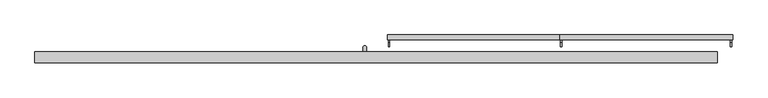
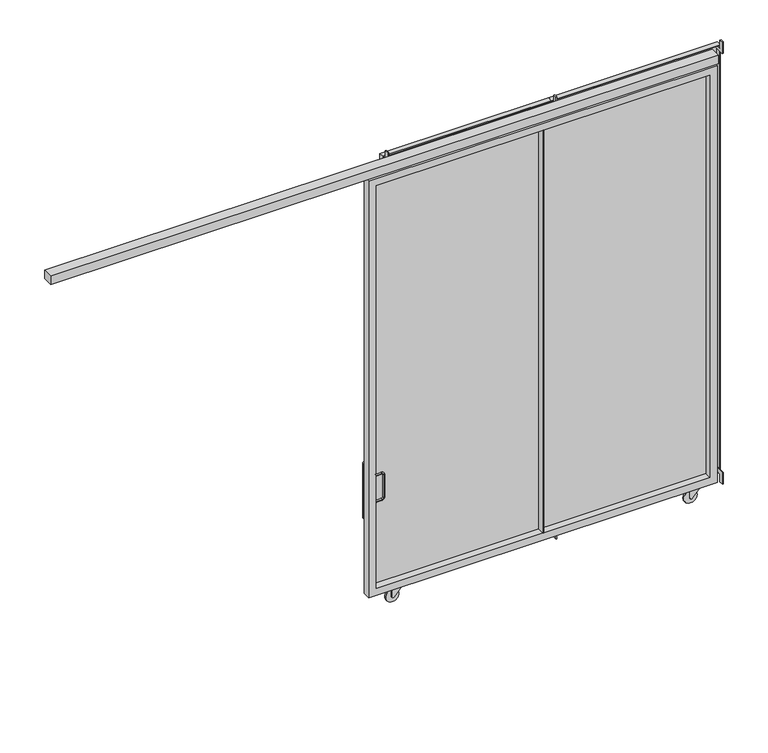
"""IFC4 building model written with IfcOpenShell, lengths in millimetres: furniture geometry, H05 Protección 4 módulos Corredizo lateral : H05 Protección 4 módulos Corredizo lateral 450x315."""

from ifc_helpers import new_model, si_unit, point, frame, frame_2d, origin, place, context, project, spatial, polyline, circle_curve, ellipse_curve, trimmed, segment, composite_curve, outline, extrude, source, transform, mapped, element, save
from ifc_brep_helpers import plane_surface, cylinder_surface, revolved_surface, advanced_brep


def furniture_e5700928(model_context):
    return source(origin(), model_context, "Body", "SolidModel", [
        advanced_brep(
        [(-50.0, -136.0, 949.0), (-50.0, -124.0, 949.0), (-8.0, -136.0, 949.0), (-8.0, -124.0, 949.0), (6.0, -124.0, 935.0), (6.0, -136.0, 935.0), (6.0, -136.0, 775.0), (6.0, -124.0, 775.0), (-50.0, -136.0, 761.0), (-50.0, -124.0, 761.0), (-8.0, -124.0, 761.0), (-8.0, -136.0, 761.0)],
        [
            (0, 1, circle_curve(frame((-50.0, -130.0, 949.0), z_axis=(-1.0, 0.0, 0.0), x_axis=(0.0, 1.0, 0.0)), 6.0)),
            (1, 0, circle_curve(frame((-50.0, -130.0, 949.0), z_axis=(-1.0, 0.0, 0.0), x_axis=(0.0, 1.0, 0.0)), 6.0)),
            (0, 2),
            (2, 3, circle_curve(frame((-8.0, -130.0, 949.0), z_axis=(-1.0, 0.0, 0.0), x_axis=(0.0, 1.0, 0.0)), 6.0)),
            (3, 1),
            (3, 2, circle_curve(frame((-8.0, -130.0, 949.0), z_axis=(-1.0, 0.0, 0.0), x_axis=(0.0, 1.0, 0.0)), 6.0)),
            (4, 5, circle_curve(frame((6.0, -130.0, 935.0), z_axis=(0.0, 0.0, -1.0), x_axis=(0.0, 1.0, 0.0)), 6.0)),
            (5, 6),
            (6, 7, circle_curve(frame((6.0, -130.0, 775.0), z_axis=(0.0, 0.0, 1.0), x_axis=(0.0, 1.0, 0.0)), 6.0)),
            (7, 4),
            (5, 4, circle_curve(frame((6.0, -130.0, 935.0), z_axis=(0.0, 0.0, -1.0), x_axis=(0.0, 1.0, 0.0)), 6.0)),
            (7, 6, circle_curve(frame((6.0, -130.0, 775.0), z_axis=(0.0, 0.0, 1.0), x_axis=(0.0, 1.0, 0.0)), 6.0)),
            (8, 9, circle_curve(frame((-50.0, -130.0, 761.0), z_axis=(-1.0, 0.0, 0.0), x_axis=(0.0, 1.0, 0.0)), 6.0)),
            (9, 8, circle_curve(frame((-50.0, -130.0, 761.0), z_axis=(-1.0, 0.0, 0.0), x_axis=(0.0, 1.0, 0.0)), 6.0)),
            (10, 11, circle_curve(frame((-8.0, -130.0, 761.0), z_axis=(-1.0, 0.0, 0.0), x_axis=(0.0, 1.0, 0.0)), 6.0)),
            (11, 8),
            (9, 10),
            (11, 10, circle_curve(frame((-8.0, -130.0, 761.0), z_axis=(-1.0, 0.0, 0.0), x_axis=(0.0, 1.0, 0.0)), 6.0)),
            (4, 3, circle_curve(frame((-8.0, -124.0, 935.0), z_axis=(0.0, -1.0, 0.0), x_axis=(0.0, 0.0, 1.0)), 14.0)),
            (2, 5, circle_curve(frame((-8.0, -136.0, 935.0), z_axis=(0.0, 1.0, 0.0), x_axis=(0.0, 0.0, 1.0)), 14.0)),
            (10, 7, circle_curve(frame((-8.0, -124.0, 775.0), z_axis=(0.0, -1.0, 0.0), x_axis=(1.0, 0.0, 0.0)), 14.0)),
            (6, 11, circle_curve(frame((-8.0, -136.0, 775.0), z_axis=(0.0, 1.0, 0.0), x_axis=(1.0, 0.0, 0.0)), 14.0)),
        ],
        [
            plane_surface(frame((-50.0, -130.0, 955.0), z_axis=(-1.0, 0.0, 0.0), x_axis=(0.0, 1.0, 0.0))),
            cylinder_surface(frame((-50.0, -130.0, 949.0), z_axis=(-1.0, 0.0, 0.0), x_axis=(0.0, 1.0, 0.0)), 6.0),
            cylinder_surface(frame((6.0, -130.0, 935.0), z_axis=(0.0, 0.0, 1.0), x_axis=(0.0, 1.0, 0.0)), 6.0),
            plane_surface(frame((-50.0, -130.0, 755.0), z_axis=(-1.0, 0.0, 0.0), x_axis=(0.0, 1.0, 0.0))),
            cylinder_surface(frame((-8.0, -130.0, 761.0), z_axis=(1.0, 0.0, 0.0), x_axis=(0.0, 1.0, 0.0)), 6.0),
            revolved_surface(trimmed(ellipse_curve(frame((-8.0, -130.0, 949.0), z_axis=(-1.0, 0.0, 0.0), x_axis=(0.0, 1.0, 0.0)), 6.0, 6.0), [point((-8.0, -136.0, 949.0))], [point((-8.0, -124.0, 949.0))], True, "CARTESIAN"), (-8.0, -130.0, 935.0), (0.0, 1.0, 0.0)),
            revolved_surface(trimmed(ellipse_curve(frame((-8.0, -130.0, 949.0), z_axis=(-1.0, 0.0, 0.0), x_axis=(0.0, 1.0, 0.0)), 6.0, 6.0), [point((-8.0, -124.0, 949.0))], [point((-8.0, -136.0, 949.0))], True, "CARTESIAN"), (-8.0, -130.0, 935.0), (0.0, 1.0, 0.0)),
            revolved_surface(trimmed(ellipse_curve(frame((6.0, -130.0, 775.0), z_axis=(0.0, 0.0, 1.0), x_axis=(0.0, 1.0, 0.0)), 6.0, 6.0), [point((6.0, -136.0, 775.0))], [point((6.0, -124.0, 775.0))], True, "CARTESIAN"), (-8.0, -130.0, 775.0), (0.0, 1.0, 0.0)),
            revolved_surface(trimmed(ellipse_curve(frame((6.0, -130.0, 775.0), z_axis=(0.0, 0.0, 1.0), x_axis=(0.0, 1.0, 0.0)), 6.0, 6.0), [point((6.0, -124.0, 775.0))], [point((6.0, -136.0, 775.0))], True, "CARTESIAN"), (-8.0, -130.0, 775.0), (0.0, 1.0, 0.0)),
        ],
        [
            (0, [[1, 2]]),
            (1, [[-1, 3, 4, 5]]),
            (1, [[-2, -5, 6, -3]]),
            (2, [[7, 8, 9, 10]]),
            (2, [[11, -10, 12, -8]]),
            (3, [[13, 14]]),
            (4, [[15, 16, -14, 17]]),
            (4, [[18, -17, -13, -16]]),
            (5, [[19, -4, 20, -7]]),
            (6, [[-20, -6, -19, -11]]),
            (7, [[21, -9, 22, -15]]),
            (8, [[-22, -12, -21, -18]]),
        ],
    ),
        advanced_brep(
        [(-87.7, -90.0, 987.0), (-62.3, -90.0, 987.0), (-62.3, -52.7, 987.0), (-87.7, -52.7, 987.0), (-62.3, -52.7, 612.4), (-87.7, -52.7, 612.4), (-87.7, -90.0, 612.4), (-62.3, -90.0, 612.4)],
        [
            (0, 1, circle_curve(frame((-75.0, -90.0, 987.0), z_axis=(0.0, -1.0, 0.0), x_axis=(1.0, 0.0, 0.0)), 12.7)),
            (1, 0, circle_curve(frame((-75.0, -90.0, 987.0), z_axis=(0.0, -1.0, 0.0), x_axis=(1.0, 0.0, 0.0)), 12.7)),
            (1, 2),
            (2, 3, ellipse_curve(frame((-75.0, -52.7, 987.0), z_axis=(0.0, -0.7071067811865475, 0.7071067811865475), x_axis=(0.0, -0.7071067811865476, -0.7071067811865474)), 17.9605122, 12.7)),
            (3, 0),
            (3, 2, ellipse_curve(frame((-75.0, -52.7, 987.0), z_axis=(0.0, -0.7071067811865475, 0.7071067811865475), x_axis=(0.0, -0.7071067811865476, -0.7071067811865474)), 17.9605122, 12.7)),
            (2, 4),
            (4, 5, ellipse_curve(frame((-75.0, -52.7, 612.4), z_axis=(0.0, 0.7071067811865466, 0.7071067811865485), x_axis=(0.0, -0.7071067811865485, 0.7071067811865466)), 17.9605122, 12.7)),
            (5, 3),
            (5, 4, ellipse_curve(frame((-75.0, -52.7, 612.4), z_axis=(0.0, 0.7071067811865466, 0.7071067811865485), x_axis=(0.0, -0.7071067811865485, 0.7071067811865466)), 17.9605122, 12.7)),
            (6, 7, circle_curve(frame((-75.0, -90.0, 612.4), z_axis=(0.0, -1.0, 0.0), x_axis=(1.0, 0.0, 0.0)), 12.7)),
            (7, 6, circle_curve(frame((-75.0, -90.0, 612.4), z_axis=(0.0, -1.0, 0.0), x_axis=(1.0, 0.0, 0.0)), 12.7)),
            (4, 7),
            (6, 5),
        ],
        [
            plane_surface(frame((-75.0, -90.0, 999.7), z_axis=(0.0, -1.0, 0.0), x_axis=(1.0, 0.0, 0.0))),
            cylinder_surface(frame((-75.0, -90.0, 987.0), z_axis=(0.0, -1.0, 0.0), x_axis=(1.0, 0.0, 0.0)), 12.7),
            cylinder_surface(frame((-75.0, -52.7, 999.7), z_axis=(0.0, 0.0, 1.0), x_axis=(1.0, 0.0, 0.0)), 12.7),
            plane_surface(frame((-75.0, -90.0, 599.7), z_axis=(0.0, -1.0, 0.0), x_axis=(1.0, 0.0, 0.0))),
            cylinder_surface(frame((-75.0, -40.0, 612.4), z_axis=(0.0, 1.0, 0.0), x_axis=(1.0, 0.0, 0.0)), 12.7),
        ],
        [
            (0, [[1, 2]]),
            (1, [[3, 4, 5, -2]]),
            (1, [[-5, 6, -3, -1]]),
            (2, [[7, 8, 9, -4]]),
            (2, [[-9, 10, -7, -6]]),
            (3, [[11, 12]]),
            (4, [[13, -11, 14, -8]]),
            (4, [[-14, -12, -13, -10]]),
        ],
    ),
        extrude(outline(polyline([(2140.0, -127.0), (2070.0, -127.0), (2070.0, -103.0), (2140.0, -103.0), (2140.0, -127.0)])), frame((0.0, 0.0, 102.0), z_axis=(0.0, 0.0, 1.0), x_axis=(1.0, 0.0, 0.0)), (0.0, 0.0, 1.0), 3.0),
        extrude(outline(composite_curve([segment(polyline([(105.0, 2070.0), (45.0, 2070.0)]), True, "CONTINUOUS"), segment(trimmed(circle_curve(frame_2d((45.0, 2080.0)), 10.0), [point((45.0, 2070.0))], [point((38.2006885, 2087.3327596))], False, "CARTESIAN"), True, "CONTINUOUS"), segment(polyline([(38.2006885, 2087.3327596), (95.0, 2140.0), (105.0, 2140.0), (105.0, 2070.0)]), True, "CONTINUOUS")], self_intersect=False)), frame((0.0, -130.0, 0.0), z_axis=(0.0, 1.0, 0.0), x_axis=(0.0, 0.0, 1.0)), (0.0, 0.0, 1.0), 3.0),
        extrude(outline(composite_curve([segment(polyline([(105.0, 2070.0), (45.0, 2070.0)]), True, "CONTINUOUS"), segment(trimmed(circle_curve(frame_2d((45.0, 2080.0)), 10.0), [point((45.0, 2070.0))], [point((38.2006885, 2087.3327596))], False, "CARTESIAN"), True, "CONTINUOUS"), segment(polyline([(38.2006885, 2087.3327596), (95.0, 2140.0), (105.0, 2140.0), (105.0, 2070.0)]), True, "CONTINUOUS")], self_intersect=False)), frame((0.0, -103.0, 0.0), z_axis=(0.0, 1.0, 0.0), x_axis=(0.0, 0.0, 1.0)), (0.0, 0.0, 1.0), 3.0),
        extrude(outline(composite_curve([segment(trimmed(circle_curve(frame_2d((45.0, 2080.0)), 45.0), [point((45.0, 2035.0))], [point((45.0, 2125.0))], False, "CARTESIAN"), True, "CONTINUOUS"), segment(trimmed(circle_curve(frame_2d((45.0, 2080.0)), 45.0), [point((45.0, 2125.0))], [point((45.0, 2035.0))], False, "CARTESIAN"), True, "CONTINUOUS")], self_intersect=False)), frame((0.0, -120.0, 0.0), z_axis=(0.0, 1.0, 0.0), x_axis=(0.0, 0.0, 1.0)), (0.0, 0.0, 1.0), 10.0),
        extrude(outline(polyline([(130.0, -127.0), (60.0, -127.0), (60.0, -103.0), (130.0, -103.0), (130.0, -127.0)])), frame((0.0, 0.0, 102.0), z_axis=(0.0, 0.0, 1.0), x_axis=(1.0, 0.0, 0.0)), (0.0, 0.0, 1.0), 3.0),
        extrude(outline(composite_curve([segment(polyline([(105.0, 60.0), (45.0, 60.0)]), True, "CONTINUOUS"), segment(trimmed(circle_curve(frame_2d((45.0, 70.0)), 10.0), [point((45.0, 60.0))], [point((38.2006885, 77.3327596))], False, "CARTESIAN"), True, "CONTINUOUS"), segment(polyline([(38.2006885, 77.3327596), (95.0, 130.0), (105.0, 130.0), (105.0, 60.0)]), True, "CONTINUOUS")], self_intersect=False)), frame((0.0, -130.0, 0.0), z_axis=(0.0, 1.0, 0.0), x_axis=(0.0, 0.0, 1.0)), (0.0, 0.0, 1.0), 3.0),
        extrude(outline(composite_curve([segment(polyline([(105.0, 60.0), (45.0, 60.0)]), True, "CONTINUOUS"), segment(trimmed(circle_curve(frame_2d((45.0, 70.0)), 10.0), [point((45.0, 60.0))], [point((38.2006885, 77.3327596))], False, "CARTESIAN"), True, "CONTINUOUS"), segment(polyline([(38.2006885, 77.3327596), (95.0, 130.0), (105.0, 130.0), (105.0, 60.0)]), True, "CONTINUOUS")], self_intersect=False)), frame((0.0, -103.0, 0.0), z_axis=(0.0, 1.0, 0.0), x_axis=(0.0, 0.0, 1.0)), (0.0, 0.0, 1.0), 3.0),
        extrude(outline(composite_curve([segment(trimmed(circle_curve(frame_2d((45.0, 70.0)), 45.0), [point((45.0, 25.0))], [point((45.0, 115.0))], False, "CARTESIAN"), True, "CONTINUOUS"), segment(trimmed(circle_curve(frame_2d((45.0, 70.0)), 45.0), [point((45.0, 115.0))], [point((45.0, 25.0))], False, "CARTESIAN"), True, "CONTINUOUS")], self_intersect=False)), frame((0.0, -120.0, 0.0), z_axis=(0.0, 1.0, 0.0), x_axis=(0.0, 0.0, 1.0)), (0.0, 0.0, 1.0), 10.0),
        extrude(outline(polyline([(2200.0, -90.0), (2200.0, -93.0), (1078.5, -93.0), (1078.5, -90.0), (2200.0, -90.0)])), frame((0.0, 0.0, 150.0), z_axis=(0.0, 0.0, 1.0), x_axis=(1.0, 0.0, 0.0)), (0.0, 0.0, 1.0), 2870.0),
        extrude(outline(polyline([(1071.5, -90.0), (1071.5, -93.0), (-50.0, -93.0), (-50.0, -90.0), (1071.5, -90.0)])), frame((0.0, 0.0, 150.0), z_axis=(0.0, 0.0, 1.0), x_axis=(1.0, 0.0, 0.0)), (0.0, 0.0, 1.0), 2870.0),
        extrude(outline(polyline([(1078.5, -90.0), (1078.5, -140.0), (1075.0, -140.0), (1075.0, -90.0), (1078.5, -90.0)])), frame((0.0, 0.0, 150.0), z_axis=(0.0, 0.0, 1.0), x_axis=(1.0, 0.0, 0.0)), (0.0, 0.0, 1.0), 2870.0),
        extrude(outline(polyline([(1075.0, -90.0), (1075.0, -140.0), (1071.5, -140.0), (1071.5, -90.0), (1075.0, -90.0)])), frame((0.0, 0.0, 150.0), z_axis=(0.0, 0.0, 1.0), x_axis=(1.0, 0.0, 0.0)), (0.0, 0.0, 1.0), 2870.0),
        extrude(outline(polyline([(3070.0, 2250.0), (3070.0, -100.0), (100.0, -100.0), (100.0, 2250.0), (3070.0, 2250.0)]), holes=[polyline([(3020.0, 2200.0), (150.0, 2200.0), (150.0, -50.0), (3020.0, -50.0), (3020.0, 2200.0)])]), frame((0.0, -140.0, 0.0), z_axis=(0.0, 1.0, 0.0), x_axis=(0.0, 0.0, 1.0)), (0.0, 0.0, 1.0), 50.0),
        extrude(outline(polyline([(2343.0, 32.0), (2343.0, 29.0), (1216.0, 29.0), (1216.0, 32.0), (2343.0, 32.0)])), frame((0.0, 0.0, 57.0), z_axis=(0.0, 0.0, 1.0), x_axis=(1.0, 0.0, 0.0)), (0.0, 0.0, 1.0), 3036.0),
        extrude(outline(polyline([(3100.0, 2350.0), (3100.0, 1212.5), (50.0, 1212.5), (50.0, 2350.0), (3100.0, 2350.0)]), holes=[polyline([(3093.0, 2343.0), (57.0, 2343.0), (57.0, 1216.0), (3093.0, 1216.0), (3093.0, 2343.0)])]), frame((0.0, 0.0, 0.0), z_axis=(0.0, 1.0, 0.0), x_axis=(0.0, 0.0, 1.0)), (0.0, 0.0, 1.0), 32.0),
        extrude(outline(polyline([(1209.0, 32.0), (1209.0, 29.0), (82.0, 29.0), (82.0, 32.0), (1209.0, 32.0)])), frame((0.0, 0.0, 57.0), z_axis=(0.0, 0.0, 1.0), x_axis=(1.0, 0.0, 0.0)), (0.0, 0.0, 1.0), 3036.0),
        extrude(outline(polyline([(3100.0, 1212.5), (3100.0, 75.0), (50.0, 75.0), (50.0, 1212.5), (3100.0, 1212.5)]), holes=[polyline([(3093.0, 1209.0), (57.0, 1209.0), (57.0, 82.0), (3093.0, 82.0), (3093.0, 1209.0)])]), frame((0.0, 0.0, 0.0), z_axis=(0.0, 1.0, 0.0), x_axis=(0.0, 0.0, 1.0)), (0.0, 0.0, 1.0), 32.0),
        extrude(outline(polyline([(-46.0, 3068.0), (-46.0, 3150.0), (-21.0, 3150.0), (-21.0, 3093.0), (29.0, 3093.0), (29.0, 3068.0), (-46.0, 3068.0)])), frame((82.0, 0.0, 0.0), z_axis=(1.0, 0.0, 0.0), x_axis=(0.0, 1.0, 0.0)), (0.0, 0.0, 1.0), 7.0),
        extrude(outline(polyline([(-46.0, 3068.0), (-46.0, 3150.0), (-21.0, 3150.0), (-21.0, 3093.0), (29.0, 3093.0), (29.0, 3068.0), (-46.0, 3068.0)])), frame((2336.0, 0.0, 0.0), z_axis=(1.0, 0.0, 0.0), x_axis=(0.0, 1.0, 0.0)), (0.0, 0.0, 1.0), 7.0),
        extrude(outline(polyline([(-46.0, 82.0), (29.0, 82.0), (29.0, 57.0), (-21.0, 57.0), (-21.0, 0.0), (-46.0, 0.0), (-46.0, 82.0)])), frame((2336.0, 0.0, 0.0), z_axis=(1.0, 0.0, 0.0), x_axis=(0.0, 1.0, 0.0)), (0.0, 0.0, 1.0), 7.0),
        extrude(outline(polyline([(-46.0, 82.0), (29.0, 82.0), (29.0, 57.0), (-21.0, 57.0), (-21.0, 0.0), (-46.0, 0.0), (-46.0, 82.0)])), frame((82.0, 0.0, 0.0), z_axis=(1.0, 0.0, 0.0), x_axis=(0.0, 1.0, 0.0)), (0.0, 0.0, 1.0), 7.0),
        extrude(outline(polyline([(-46.0, 3068.0), (-46.0, 3150.0), (-21.0, 3150.0), (-21.0, 3093.0), (29.0, 3093.0), (29.0, 3068.0), (-46.0, 3068.0)])), frame((1216.0, 0.0, 0.0), z_axis=(1.0, 0.0, 0.0), x_axis=(0.0, 1.0, 0.0)), (0.0, 0.0, 1.0), 7.0),
        extrude(outline(polyline([(-46.0, 82.0), (29.0, 82.0), (29.0, 57.0), (-21.0, 57.0), (-21.0, 0.0), (-46.0, 0.0), (-46.0, 82.0)])), frame((1216.0, 0.0, 0.0), z_axis=(1.0, 0.0, 0.0), x_axis=(0.0, 1.0, 0.0)), (0.0, 0.0, 1.0), 7.0),
        extrude(outline(polyline([(2250.0, -80.0), (2250.0, -150.0), (-2250.0, -150.0), (-2250.0, -80.0), (2250.0, -80.0)])), frame((0.0, 0.0, 3090.0), z_axis=(0.0, 0.0, 1.0), x_axis=(1.0, 0.0, 0.0)), (0.0, 0.0, 1.0), 60.0),
    ])


if __name__ == "__main__":
    model = new_model("IFC4")
    model_context = context("Model", 3, world=origin())
    ifc_project = project(units=[si_unit("LENGTHUNIT", "METRE", prefix="MILLI")], contexts=[model_context])
    site = spatial("IfcSite", under=ifc_project)
    building = spatial("IfcBuilding", under=site)
    placement = place(None, origin())
    furniture_shape = furniture_e5700928(model_context)
    element("IfcFurniture", 1, ObjectType="H05 Protección 4 módulos Corredizo lateral : H05 Protección 4 módulos Corredizo lateral 450x315", at=placement, inside=building, context=model_context, shape_type="MappedRepresentation", body=[
        mapped(furniture_shape, transform((0.0, 0.0, 0.0), x_axis=(1.0, 0.0, 0.0), y_axis=(0.0, 1.0, 0.0), z_axis=(0.0, 0.0, 1.0))),
    ])
    save(model, "model.ifc")
